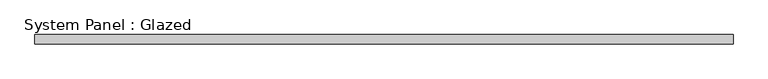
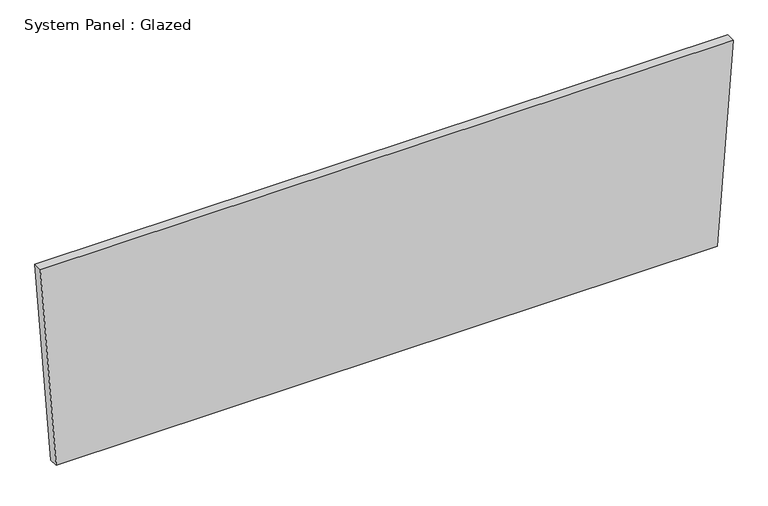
"""IFC4 building model written with IfcOpenShell, lengths in millimetres: plate geometry, System Panel : Glazed."""

from ifc_helpers import new_model, si_unit, frame, origin, place, context, project, spatial, polyline, outline, extrude, source, transform, mapped, element, save


def system_panel_glazed_ade15bac(model_context):
    return source(origin(), model_context, "Body", "SweptSolid", [
        extrude(outline(polyline([(0.0, -906.3646509), (0.0, 906.3646509), (582.5097319, 949.8334971), (582.5097319, -949.8334971), (0.0, -906.3646509)])), frame((0.0, -44.45, 0.0), z_axis=(0.0, 1.0, 0.0), x_axis=(0.0, 0.0, 1.0)), (0.0, 0.0, 1.0), 25.4),
    ])


if __name__ == "__main__":
    model = new_model("IFC4")
    model_context = context("Model", 3, world=origin())
    ifc_project = project(units=[si_unit("LENGTHUNIT", "METRE", prefix="MILLI")], contexts=[model_context])
    site = spatial("IfcSite", under=ifc_project)
    building = spatial("IfcBuilding", under=site)
    placement = place(None, origin())
    system_panel_glazed_shape = system_panel_glazed_ade15bac(model_context)
    element("IfcPlate", 1, ObjectType="System Panel : Glazed", at=placement, inside=building, context=model_context, shape_type="MappedRepresentation", body=[
        mapped(system_panel_glazed_shape, transform((0.0, 0.0, 0.0), x_axis=(1.0, 0.0, 0.0), y_axis=(0.0, 1.0, 0.0), z_axis=(0.0, 0.0, 1.0))),
    ])
    save(model, "model.ifc")
